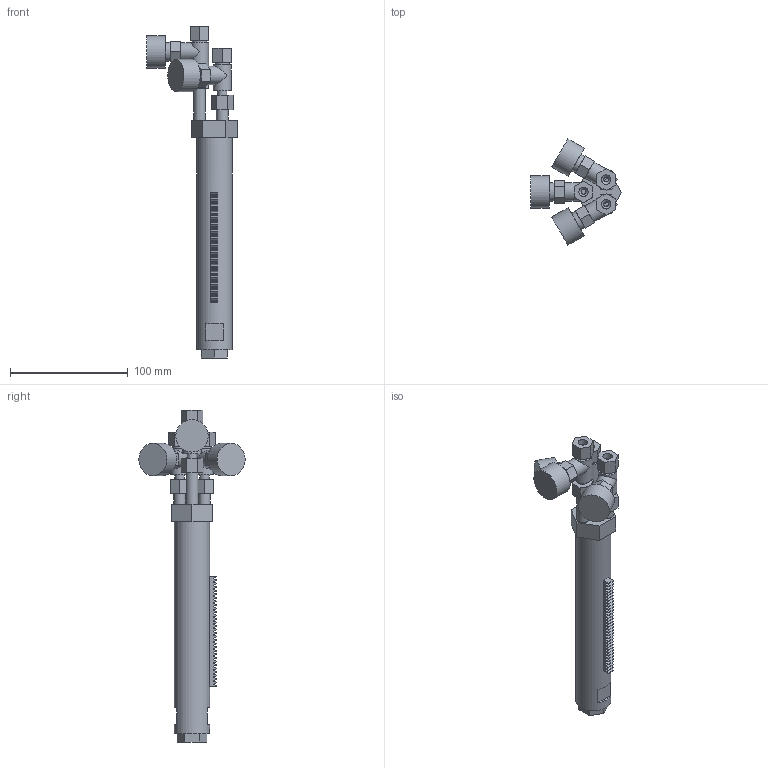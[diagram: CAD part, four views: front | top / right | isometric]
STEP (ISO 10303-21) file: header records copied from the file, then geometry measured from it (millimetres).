
FILE_DESCRIPTION(('STEP AP214'), '1');
FILE_NAME('LT-SJ-02 - Ãàçîêèñëîðîäíûé ðåçàê 30õ180ìì', '', ('UNSPECIFIED'), ('UNSPECIFIED'), 'ASCON STEP Converter 1.3', 'ASCON Math Kernel', '');
FILE_SCHEMA(('AUTOMOTIVE_DESIGN { 1 0 10303 214 3 1 1}'));
Length unit declared in the file: millimetre
Products named in the file (1): LT-SJ-02
Bounding box: 77.26 x 90.24 x 282 mm (x, y, z)
Volume: 204062.4 mm3; surface area: 52336.3 mm2
Topology: 2 solids, 2 shells, 292 faces, 728 edges, 484 vertices
Faces by surface type: plane 252, cylinder 37, cone 3
Full cylindrical faces by diameter (mm): 4 x3, 8 x9, 10 x3, 12 x3, 15.5 x7, 16 x3, 22.5 x3, 27.5 x3, 30 x1
Entity records: 10912 total; most frequent: CARTESIAN_POINT 1638, ORIENTED_EDGE 1380, DIRECTION 1346, EDGE_CURVE 690, LINE 598, VECTOR 598, VERTEX_POINT 484, AXIS2_PLACEMENT_3D 374
